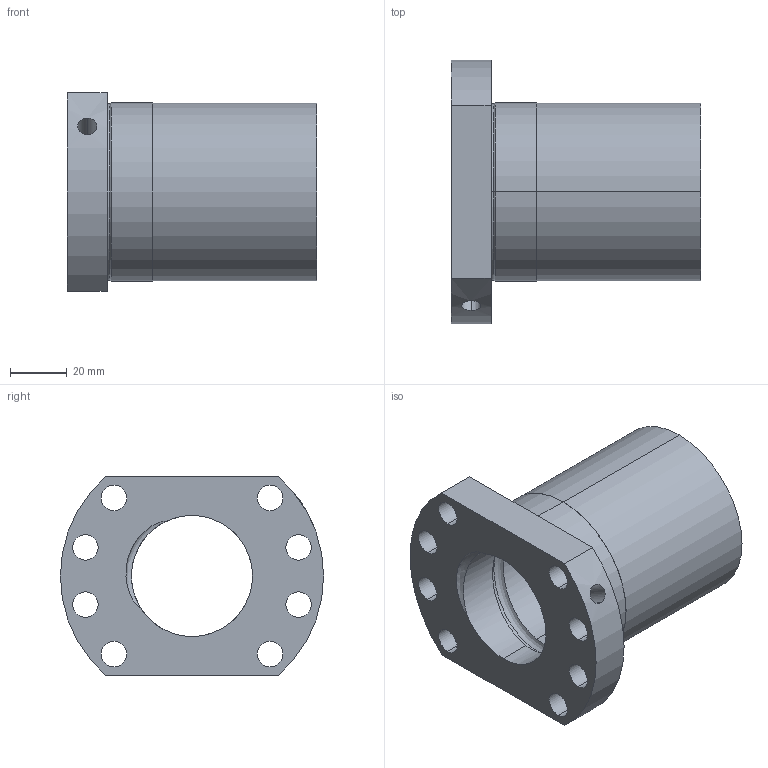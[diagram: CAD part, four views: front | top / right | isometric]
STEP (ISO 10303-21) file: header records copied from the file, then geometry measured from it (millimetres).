
FILE_DESCRIPTION (( 'STEP AP214' ), '1' );
FILE_NAME ('LLE4020-F.STEP', '2020-12-17T06:57:44', ( 'user' ), ( 'datathink' ), 'SwSTEP 2.0', 'SolidWorks 2013', '' );
FILE_SCHEMA (( 'AUTOMOTIVE_DESIGN' ));
Length unit declared in the file: millimetre
Products named in the file (1): LLE4020-F
Bounding box: 88 x 93 x 70 mm (x, y, z)
Volume: 171374.4 mm3; surface area: 43122.1 mm2
Topology: 1 solids, 1 shells, 54 faces, 144 edges, 93 vertices
Faces by surface type: cylinder 38, plane 7, torus 4, bspline 3, cone 2
Entity records: 5185 total; most frequent: CARTESIAN_POINT 3788, ORIENTED_EDGE 288, DIRECTION 276, EDGE_CURVE 144, AXIS2_PLACEMENT_3D 115, VERTEX_POINT 93, EDGE_LOOP 75, CIRCLE 63
